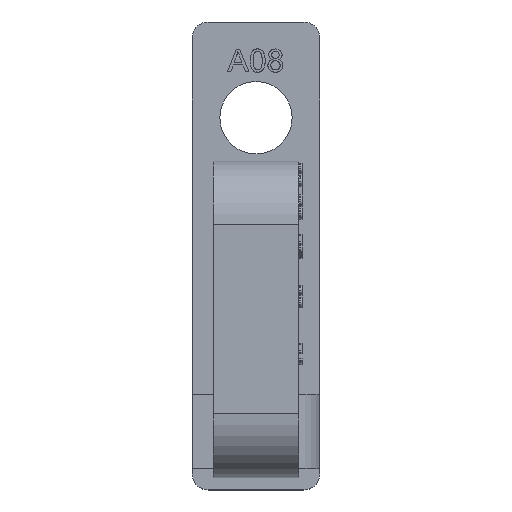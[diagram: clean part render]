
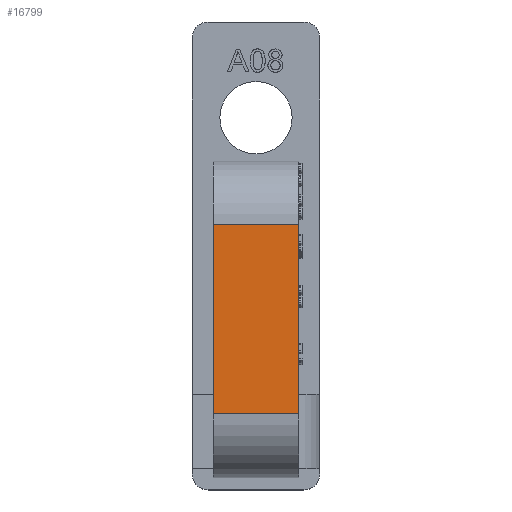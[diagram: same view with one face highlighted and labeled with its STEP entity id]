
A CAD part, top view. The second image highlights one B-rep face of the part: STEP entity #16799.
In plain terms, the highlighted planar face has unit normal (0, 0, 1).
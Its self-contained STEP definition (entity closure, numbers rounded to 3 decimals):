
#3310 = PLANE('',#3311);
#3311 = AXIS2_PLACEMENT_3D('',#3312,#3313,#3314);
#3312 = CARTESIAN_POINT('',(-4.,-0.227,47.191));
#3313 = DIRECTION('',(1.,0.,0.));
#3314 = DIRECTION('',(-0.,0.,1.));
#3360 = PLANE('',#3361);
#3361 = AXIS2_PLACEMENT_3D('',#3362,#3363,#3364);
#3362 = CARTESIAN_POINT('',(4.,-0.227,47.191));
#3363 = DIRECTION('',(1.,0.,0.));
#3364 = DIRECTION('',(-0.,0.,1.));
#6301 = VERTEX_POINT('',#6302);
#6302 = CARTESIAN_POINT('',(-4.,2.787,86.));
#6317 = CYLINDRICAL_SURFACE('',#6318,6.);
#6318 = AXIS2_PLACEMENT_3D('',#6319,#6320,#6321);
#6319 = CARTESIAN_POINT('',(-4.,2.787,80.));
#6320 = DIRECTION('',(-1.,-0.,-0.));
#6321 = DIRECTION('',(0.,1.,0.));
#6329 = EDGE_CURVE('',#6301,#6330,#6332,.T.);
#6330 = VERTEX_POINT('',#6331);
#6331 = CARTESIAN_POINT('',(-4.,-15.,86.));
#6332 = SURFACE_CURVE('',#6333,(#6337,#6344),.PCURVE_S1.);
#6333 = LINE('',#6334,#6335);
#6334 = CARTESIAN_POINT('',(-4.,2.787,86.));
#6335 = VECTOR('',#6336,1.);
#6336 = DIRECTION('',(0.,-1.,0.));
#6337 = PCURVE('',#3310,#6338);
#6338 = DEFINITIONAL_REPRESENTATION('',(#6339),#6343);
#6339 = LINE('',#6340,#6341);
#6340 = CARTESIAN_POINT('',(38.809,-3.015));
#6341 = VECTOR('',#6342,1.);
#6342 = DIRECTION('',(0.,1.));
#6343 = ( GEOMETRIC_REPRESENTATION_CONTEXT(2) 
PARAMETRIC_REPRESENTATION_CONTEXT() REPRESENTATION_CONTEXT('2D SPACE',''
  ) );
#6344 = PCURVE('',#6345,#6350);
#6345 = PLANE('',#6346);
#6346 = AXIS2_PLACEMENT_3D('',#6347,#6348,#6349);
#6347 = CARTESIAN_POINT('',(-4.,2.787,86.));
#6348 = DIRECTION('',(0.,0.,-1.));
#6349 = DIRECTION('',(0.,-1.,0.));
#6350 = DEFINITIONAL_REPRESENTATION('',(#6351),#6355);
#6351 = LINE('',#6352,#6353);
#6352 = CARTESIAN_POINT('',(0.,-0.));
#6353 = VECTOR('',#6354,1.);
#6354 = DIRECTION('',(1.,0.));
#6355 = ( GEOMETRIC_REPRESENTATION_CONTEXT(2) 
PARAMETRIC_REPRESENTATION_CONTEXT() REPRESENTATION_CONTEXT('2D SPACE',''
  ) );
#6374 = CYLINDRICAL_SURFACE('',#6375,6.);
#6375 = AXIS2_PLACEMENT_3D('',#6376,#6377,#6378);
#6376 = CARTESIAN_POINT('',(-4.,-15.,80.));
#6377 = DIRECTION('',(-1.,-0.,-0.));
#6378 = DIRECTION('',(-0.,0.,1.));
#6813 = VERTEX_POINT('',#6814);
#6814 = CARTESIAN_POINT('',(4.,2.787,86.));
#6836 = EDGE_CURVE('',#6813,#6837,#6839,.T.);
#6837 = VERTEX_POINT('',#6838);
#6838 = CARTESIAN_POINT('',(4.,-15.,86.));
#6839 = SURFACE_CURVE('',#6840,(#6844,#6851),.PCURVE_S1.);
#6840 = LINE('',#6841,#6842);
#6841 = CARTESIAN_POINT('',(4.,2.787,86.));
#6842 = VECTOR('',#6843,1.);
#6843 = DIRECTION('',(0.,-1.,0.));
#6844 = PCURVE('',#3360,#6845);
#6845 = DEFINITIONAL_REPRESENTATION('',(#6846),#6850);
#6846 = LINE('',#6847,#6848);
#6847 = CARTESIAN_POINT('',(38.809,-3.015));
#6848 = VECTOR('',#6849,1.);
#6849 = DIRECTION('',(0.,1.));
#6850 = ( GEOMETRIC_REPRESENTATION_CONTEXT(2) 
PARAMETRIC_REPRESENTATION_CONTEXT() REPRESENTATION_CONTEXT('2D SPACE',''
  ) );
#6851 = PCURVE('',#6345,#6852);
#6852 = DEFINITIONAL_REPRESENTATION('',(#6853),#6857);
#6853 = LINE('',#6854,#6855);
#6854 = CARTESIAN_POINT('',(0.,-8.));
#6855 = VECTOR('',#6856,1.);
#6856 = DIRECTION('',(1.,0.));
#6857 = ( GEOMETRIC_REPRESENTATION_CONTEXT(2) 
PARAMETRIC_REPRESENTATION_CONTEXT() REPRESENTATION_CONTEXT('2D SPACE',''
  ) );
#16776 = EDGE_CURVE('',#6330,#6837,#16777,.T.);
#16777 = SURFACE_CURVE('',#16778,(#16782,#16789),.PCURVE_S1.);
#16778 = LINE('',#16779,#16780);
#16779 = CARTESIAN_POINT('',(-4.,-15.,86.));
#16780 = VECTOR('',#16781,1.);
#16781 = DIRECTION('',(1.,0.,0.));
#16782 = PCURVE('',#6374,#16783);
#16783 = DEFINITIONAL_REPRESENTATION('',(#16784),#16788);
#16784 = LINE('',#16785,#16786);
#16785 = CARTESIAN_POINT('',(-0.,0.));
#16786 = VECTOR('',#16787,1.);
#16787 = DIRECTION('',(-0.,-1.));
#16788 = ( GEOMETRIC_REPRESENTATION_CONTEXT(2) 
PARAMETRIC_REPRESENTATION_CONTEXT() REPRESENTATION_CONTEXT('2D SPACE',''
  ) );
#16789 = PCURVE('',#6345,#16790);
#16790 = DEFINITIONAL_REPRESENTATION('',(#16791),#16795);
#16791 = LINE('',#16792,#16793);
#16792 = CARTESIAN_POINT('',(17.787,0.));
#16793 = VECTOR('',#16794,1.);
#16794 = DIRECTION('',(0.,-1.));
#16795 = ( GEOMETRIC_REPRESENTATION_CONTEXT(2) 
PARAMETRIC_REPRESENTATION_CONTEXT() REPRESENTATION_CONTEXT('2D SPACE',''
  ) );
#16799 = ADVANCED_FACE('',(#16800),#6345,.F.);
#16800 = FACE_BOUND('',#16801,.F.);
#16801 = EDGE_LOOP('',(#16802,#16823,#16824,#16825));
#16802 = ORIENTED_EDGE('',*,*,#16803,.T.);
#16803 = EDGE_CURVE('',#6301,#6813,#16804,.T.);
#16804 = SURFACE_CURVE('',#16805,(#16809,#16816),.PCURVE_S1.);
#16805 = LINE('',#16806,#16807);
#16806 = CARTESIAN_POINT('',(-4.,2.787,86.));
#16807 = VECTOR('',#16808,1.);
#16808 = DIRECTION('',(1.,0.,0.));
#16809 = PCURVE('',#6345,#16810);
#16810 = DEFINITIONAL_REPRESENTATION('',(#16811),#16815);
#16811 = LINE('',#16812,#16813);
#16812 = CARTESIAN_POINT('',(0.,-0.));
#16813 = VECTOR('',#16814,1.);
#16814 = DIRECTION('',(0.,-1.));
#16815 = ( GEOMETRIC_REPRESENTATION_CONTEXT(2) 
PARAMETRIC_REPRESENTATION_CONTEXT() REPRESENTATION_CONTEXT('2D SPACE',''
  ) );
#16816 = PCURVE('',#6317,#16817);
#16817 = DEFINITIONAL_REPRESENTATION('',(#16818),#16822);
#16818 = LINE('',#16819,#16820);
#16819 = CARTESIAN_POINT('',(-1.571,0.));
#16820 = VECTOR('',#16821,1.);
#16821 = DIRECTION('',(-0.,-1.));
#16822 = ( GEOMETRIC_REPRESENTATION_CONTEXT(2) 
PARAMETRIC_REPRESENTATION_CONTEXT() REPRESENTATION_CONTEXT('2D SPACE',''
  ) );
#16823 = ORIENTED_EDGE('',*,*,#6836,.T.);
#16824 = ORIENTED_EDGE('',*,*,#16776,.F.);
#16825 = ORIENTED_EDGE('',*,*,#6329,.F.);
